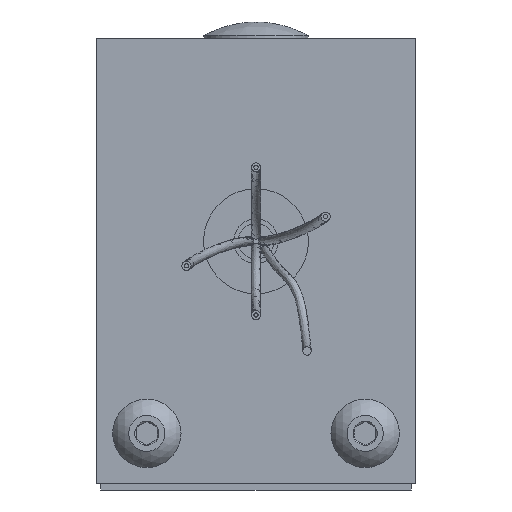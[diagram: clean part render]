
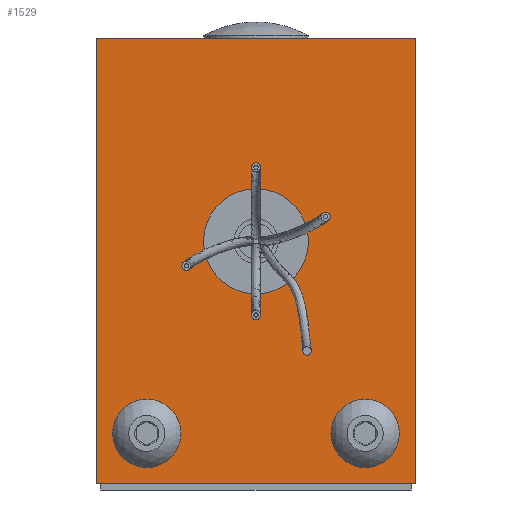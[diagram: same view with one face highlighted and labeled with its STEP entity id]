
A CAD part, front view. The second image highlights one B-rep face of the part: STEP entity #1529.
In plain terms, the highlighted planar face has unit normal (0, -1, 0).
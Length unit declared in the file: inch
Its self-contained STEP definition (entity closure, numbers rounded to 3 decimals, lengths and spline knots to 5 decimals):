
#114 = EDGE_LOOP ( 'NONE', ( #2826, #6588, #274, #2820 ) ) ;
#138 = EDGE_CURVE ( 'NONE', #5966, #5966, #4514, .T. ) ;
#222 = ORIENTED_EDGE ( 'NONE', *, *, #6555, .T. ) ;
#265 = FACE_OUTER_BOUND ( 'NONE', #114, .T. ) ;
#274 = ORIENTED_EDGE ( 'NONE', *, *, #464, .T. ) ;
#351 = VERTEX_POINT ( 'NONE', #1226 ) ;
#391 = DIRECTION ( 'NONE',  ( 0., 1., 0. ) ) ;
#433 = FACE_BOUND ( 'NONE', #3267, .T. ) ;
#464 = EDGE_CURVE ( 'NONE', #351, #2167, #4991, .T. ) ;
#503 = CARTESIAN_POINT ( 'NONE',  ( 0.38, -0.24487, -0.585 ) ) ;
#666 = ORIENTED_EDGE ( 'NONE', *, *, #3549, .F. ) ;
#712 = CIRCLE ( 'NONE', #6828, 0.08148 ) ;
#736 = CARTESIAN_POINT ( 'NONE',  ( -0.38, -0.24487, -0.585 ) ) ;
#802 = EDGE_CURVE ( 'NONE', #6107, #351, #3451, .T. ) ;
#1183 = CARTESIAN_POINT ( 'NONE',  ( 0.26, -0.24487, -0.465 ) ) ;
#1226 = CARTESIAN_POINT ( 'NONE',  ( -0.38, -0.24487, 0.475 ) ) ;
#1529 = ADVANCED_FACE ( 'NONE', ( #433, #5069, #1837, #265 ), #4178, .F. ) ;
#1532 = VECTOR ( 'NONE', #4474, 39.37008 ) ;
#1581 = DIRECTION ( 'NONE',  ( 0., 0., 1. ) ) ;
#1781 = CARTESIAN_POINT ( 'NONE',  ( 0., -0.24487, 0.475 ) ) ;
#1837 = FACE_BOUND ( 'NONE', #4332, .T. ) ;
#1848 = VECTOR ( 'NONE', #5371, 39.37008 ) ;
#1887 = DIRECTION ( 'NONE',  ( 0., 0., -1. ) ) ;
#2167 = VERTEX_POINT ( 'NONE', #736 ) ;
#2223 = CARTESIAN_POINT ( 'NONE',  ( 0.38, -0.24487, -0.055 ) ) ;
#2393 = DIRECTION ( 'NONE',  ( 0., -1., 0. ) ) ;
#2478 = CARTESIAN_POINT ( 'NONE',  ( 0.26, -0.24487, -0.38352 ) ) ;
#2522 = DIRECTION ( 'NONE',  ( 0., -1., 0. ) ) ;
#2820 = ORIENTED_EDGE ( 'NONE', *, *, #5431, .T. ) ;
#2826 = ORIENTED_EDGE ( 'NONE', *, *, #5696, .T. ) ;
#3161 = DIRECTION ( 'NONE',  ( -1., 0., 0. ) ) ;
#3267 = EDGE_LOOP ( 'NONE', ( #222 ) ) ;
#3291 = DIRECTION ( 'NONE',  ( 0., 1., 0. ) ) ;
#3451 = LINE ( 'NONE', #1781, #1848 ) ;
#3549 = EDGE_CURVE ( 'NONE', #5019, #5019, #712, .T. ) ;
#3867 = CARTESIAN_POINT ( 'NONE',  ( 0., -0.24487, -0.585 ) ) ;
#4178 = PLANE ( 'NONE',  #5129 ) ;
#4227 = ORIENTED_EDGE ( 'NONE', *, *, #138, .F. ) ;
#4332 = EDGE_LOOP ( 'NONE', ( #4227 ) ) ;
#4474 = DIRECTION ( 'NONE',  ( 1., 0., 0. ) ) ;
#4514 = CIRCLE ( 'NONE', #7438, 0.08148 ) ;
#4769 = CARTESIAN_POINT ( 'NONE',  ( 0., -0.24487, -0.055 ) ) ;
#4851 = LINE ( 'NONE', #2223, #6451 ) ;
#4991 = LINE ( 'NONE', #6666, #6219 ) ;
#5019 = VERTEX_POINT ( 'NONE', #6139 ) ;
#5053 = AXIS2_PLACEMENT_3D ( 'NONE', #6923, #3291, #7526 ) ;
#5069 = FACE_BOUND ( 'NONE', #7066, .T. ) ;
#5129 = AXIS2_PLACEMENT_3D ( 'NONE', #4769, #391, #3161 ) ;
#5371 = DIRECTION ( 'NONE',  ( -1., 0., 0. ) ) ;
#5431 = EDGE_CURVE ( 'NONE', #2167, #7588, #6367, .T. ) ;
#5696 = EDGE_CURVE ( 'NONE', #7588, #6107, #4851, .T. ) ;
#5870 = DIRECTION ( 'NONE',  ( 0., 0., 1. ) ) ;
#5966 = VERTEX_POINT ( 'NONE', #2478 ) ;
#6018 = CARTESIAN_POINT ( 'NONE',  ( -0.26, -0.24487, -0.465 ) ) ;
#6107 = VERTEX_POINT ( 'NONE', #6753 ) ;
#6139 = CARTESIAN_POINT ( 'NONE',  ( -0.26, -0.24487, -0.38352 ) ) ;
#6219 = VECTOR ( 'NONE', #1887, 39.37008 ) ;
#6367 = LINE ( 'NONE', #3867, #1532 ) ;
#6451 = VECTOR ( 'NONE', #5870, 39.37008 ) ;
#6555 = EDGE_CURVE ( 'NONE', #7095, #7095, #6848, .T. ) ;
#6588 = ORIENTED_EDGE ( 'NONE', *, *, #802, .T. ) ;
#6633 = DIRECTION ( 'NONE',  ( 0., 0., 1. ) ) ;
#6666 = CARTESIAN_POINT ( 'NONE',  ( -0.38, -0.24487, -0.055 ) ) ;
#6753 = CARTESIAN_POINT ( 'NONE',  ( 0.38, -0.24487, 0.475 ) ) ;
#6815 = CARTESIAN_POINT ( 'NONE',  ( 0., -0.24487, 0.1175 ) ) ;
#6828 = AXIS2_PLACEMENT_3D ( 'NONE', #6018, #2393, #6633 ) ;
#6848 = CIRCLE ( 'NONE', #5053, 0.125 ) ;
#6923 = CARTESIAN_POINT ( 'NONE',  ( 0., -0.24487, -0.0075 ) ) ;
#7066 = EDGE_LOOP ( 'NONE', ( #666 ) ) ;
#7095 = VERTEX_POINT ( 'NONE', #6815 ) ;
#7438 = AXIS2_PLACEMENT_3D ( 'NONE', #1183, #2522, #1581 ) ;
#7526 = DIRECTION ( 'NONE',  ( 0., 0., 1. ) ) ;
#7588 = VERTEX_POINT ( 'NONE', #503 ) ;
